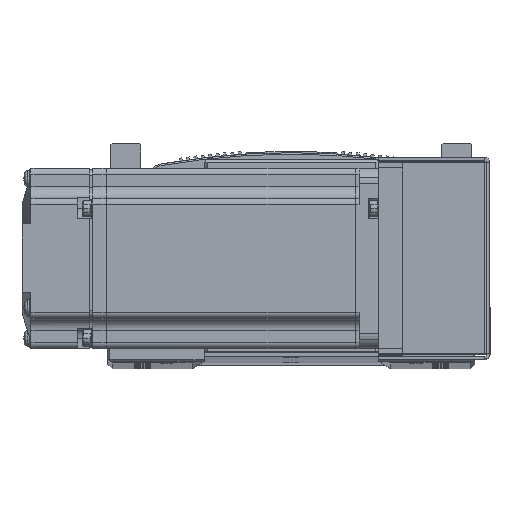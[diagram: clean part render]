
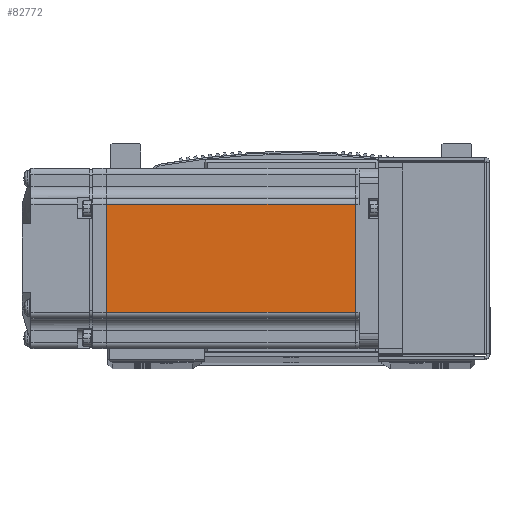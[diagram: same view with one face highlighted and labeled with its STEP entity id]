
A CAD part, top view. The second image highlights one B-rep face of the part: STEP entity #82772.
In plain terms, the highlighted planar face has unit normal (0, 0, 1) as drawn and (0, 1, 0) by its records, which use the part's own axes.
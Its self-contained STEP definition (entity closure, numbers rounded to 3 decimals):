
#5413 = FACE_OUTER_BOUND ( 'NONE', #10896, .T. ) ;
#10896 = EDGE_LOOP ( 'NONE', ( #53493, #53437, #53677, #53375 ) ) ;
#25413 = LINE ( 'NONE', #31994, #25414 ) ;
#25414 = VECTOR ( 'NONE', #31958, 1000. ) ;
#25430 = LINE ( 'NONE', #27861, #25497 ) ;
#25439 = LINE ( 'NONE', #27906, #25468 ) ;
#25468 = VECTOR ( 'NONE', #27913, 1000. ) ;
#25497 = VECTOR ( 'NONE', #27878, 1000. ) ;
#25521 = LINE ( 'NONE', #32086, #25536 ) ;
#25536 = VECTOR ( 'NONE', #32102, 1000. ) ;
#25889 = AXIS2_PLACEMENT_3D ( 'NONE', #96604, #96632, #96612 ) ;
#27861 = CARTESIAN_POINT ( 'NONE',  ( -6.5, 30., -18. ) ) ;
#27878 = DIRECTION ( 'NONE',  ( -1., 0., 0. ) ) ;
#27906 = CARTESIAN_POINT ( 'NONE',  ( -7.75, 30., 0. ) ) ;
#27913 = DIRECTION ( 'NONE',  ( 0., 0., 1. ) ) ;
#31958 = DIRECTION ( 'NONE',  ( 0., 0., 1. ) ) ;
#31994 = CARTESIAN_POINT ( 'NONE',  ( -90.45, 30., 0. ) ) ;
#32086 = CARTESIAN_POINT ( 'NONE',  ( -6.5, 30., 18. ) ) ;
#32102 = DIRECTION ( 'NONE',  ( 1., 0., 0. ) ) ;
#39944 = CARTESIAN_POINT ( 'NONE',  ( -7.75, 30., 18. ) ) ;
#53375 = ORIENTED_EDGE ( 'NONE', *, *, #72241, .T. ) ;
#53437 = ORIENTED_EDGE ( 'NONE', *, *, #72323, .T. ) ;
#53493 = ORIENTED_EDGE ( 'NONE', *, *, #72339, .F. ) ;
#53677 = ORIENTED_EDGE ( 'NONE', *, *, #72219, .T. ) ;
#56613 = VERTEX_POINT ( 'NONE', #90140 ) ;
#56638 = VERTEX_POINT ( 'NONE', #90310 ) ;
#56672 = VERTEX_POINT ( 'NONE', #90257 ) ;
#59068 = VERTEX_POINT ( 'NONE', #39944 ) ;
#72219 = EDGE_CURVE ( 'NONE', #56613, #56638, #25413, .T. ) ;
#72241 = EDGE_CURVE ( 'NONE', #56638, #59068, #25521, .T. ) ;
#72323 = EDGE_CURVE ( 'NONE', #56672, #56613, #25430, .T. ) ;
#72339 = EDGE_CURVE ( 'NONE', #56672, #59068, #25439, .T. ) ;
#82772 = ADVANCED_FACE ( 'NONE', ( #5413 ), #96557, .T. ) ;
#90140 = CARTESIAN_POINT ( 'NONE',  ( -90.45, 30., -18. ) ) ;
#90257 = CARTESIAN_POINT ( 'NONE',  ( -7.75, 30., -18. ) ) ;
#90310 = CARTESIAN_POINT ( 'NONE',  ( -90.45, 30., 18. ) ) ;
#96557 = PLANE ( 'NONE',  #25889 ) ;
#96604 = CARTESIAN_POINT ( 'NONE',  ( -6.5, 30., 25. ) ) ;
#96612 = DIRECTION ( 'NONE',  ( 0., 0., 1. ) ) ;
#96632 = DIRECTION ( 'NONE',  ( 0., 1., 0. ) ) ;
